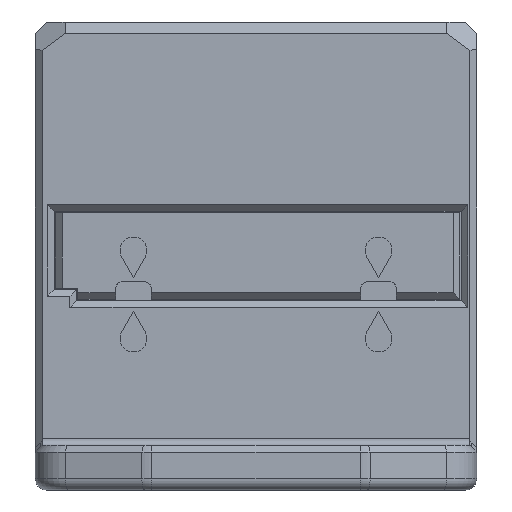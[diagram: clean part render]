
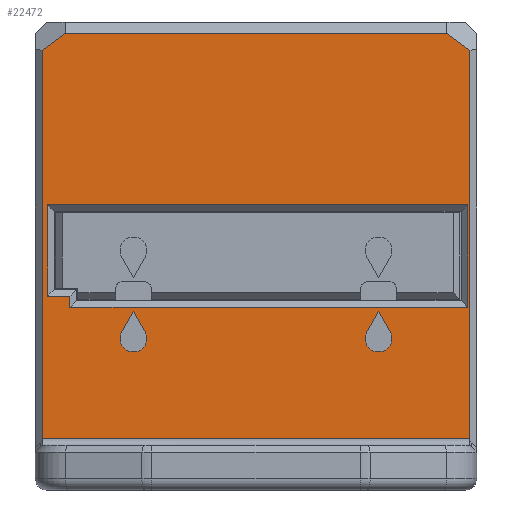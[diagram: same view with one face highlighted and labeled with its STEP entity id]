
A CAD part, front view. The second image highlights one B-rep face of the part: STEP entity #22472.
In plain terms, the highlighted planar face has unit normal (0, -1, 0).
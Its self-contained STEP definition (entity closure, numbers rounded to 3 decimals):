
#6791=DIRECTION('',(-0.5,0.,-0.866));
#6792=VECTOR('',#6791,1.039);
#6793=CARTESIAN_POINT('',(-5.5,-3.7,-13.));
#6794=LINE('',#6793,#6792);
#6795=CARTESIAN_POINT('',(-5.5,-3.7,-14.2));
#6796=DIRECTION('',(0.,-1.,0.));
#6797=DIRECTION('',(-0.866,0.,0.5));
#6798=AXIS2_PLACEMENT_3D('',#6795,#6796,#6797);
#6800=DIRECTION('',(-0.5,0.,0.866));
#6801=VECTOR('',#6800,1.039);
#6802=CARTESIAN_POINT('',(-4.98,-3.7,-13.9));
#6803=LINE('',#6802,#6801);
#6804=DIRECTION('',(-0.5,0.,-0.866));
#6805=VECTOR('',#6804,1.039);
#6806=CARTESIAN_POINT('',(5.5,-3.7,-13.));
#6807=LINE('',#6806,#6805);
#6808=CARTESIAN_POINT('',(5.5,-3.7,-14.2));
#6809=DIRECTION('',(0.,-1.,0.));
#6810=DIRECTION('',(-0.866,0.,0.5));
#6811=AXIS2_PLACEMENT_3D('',#6808,#6809,#6810);
#6813=DIRECTION('',(-0.5,0.,0.866));
#6814=VECTOR('',#6813,1.039);
#6815=CARTESIAN_POINT('',(6.02,-3.7,-13.9));
#6816=LINE('',#6815,#6814);
#6817=DIRECTION('',(1.,0.,0.));
#6818=VECTOR('',#6817,18.85);
#6819=CARTESIAN_POINT('',(-9.35,-3.7,-8.2));
#6820=LINE('',#6819,#6818);
#6821=DIRECTION('',(0.,0.,1.));
#6822=VECTOR('',#6821,4.1);
#6823=CARTESIAN_POINT('',(-9.35,-3.7,-12.3));
#6824=LINE('',#6823,#6822);
#6825=DIRECTION('',(-1.,0.,0.));
#6826=VECTOR('',#6825,1.);
#6827=CARTESIAN_POINT('',(-8.35,-3.7,-12.3));
#6828=LINE('',#6827,#6826);
#6829=DIRECTION('',(0.,0.,1.));
#6830=VECTOR('',#6829,0.5);
#6831=CARTESIAN_POINT('',(-8.35,-3.7,-12.8));
#6832=LINE('',#6831,#6830);
#6833=DIRECTION('',(-1.,0.,0.));
#6834=VECTOR('',#6833,17.85);
#6835=CARTESIAN_POINT('',(9.5,-3.7,-12.8));
#6836=LINE('',#6835,#6834);
#6837=DIRECTION('',(0.,0.,-1.));
#6838=VECTOR('',#6837,4.6);
#6839=CARTESIAN_POINT('',(9.5,-3.7,-8.2));
#6840=LINE('',#6839,#6838);
#6841=DIRECTION('',(-1.,0.,0.));
#6842=VECTOR('',#6841,19.2);
#6843=CARTESIAN_POINT('',(9.6,-3.7,-18.7));
#6844=LINE('',#6843,#6842);
#6845=DIRECTION('',(0.,0.,-1.));
#6846=VECTOR('',#6845,17.425);
#6847=CARTESIAN_POINT('',(-9.6,-3.7,-1.275));
#6848=LINE('',#6847,#6846);
#6849=DIRECTION('',(0.8,0.,0.6));
#6850=VECTOR('',#6849,1.292);
#6851=CARTESIAN_POINT('',(-9.6,-3.7,-1.275));
#6852=LINE('',#6851,#6850);
#6853=DIRECTION('',(1.,0.,0.));
#6854=VECTOR('',#6853,17.133);
#6855=CARTESIAN_POINT('',(-8.567,-3.7,-0.5));
#6856=LINE('',#6855,#6854);
#6857=DIRECTION('',(-0.8,0.,0.6));
#6858=VECTOR('',#6857,1.292);
#6859=CARTESIAN_POINT('',(9.6,-3.7,-1.275));
#6860=LINE('',#6859,#6858);
#6861=DIRECTION('',(0.,0.,1.));
#6862=VECTOR('',#6861,17.425);
#6863=CARTESIAN_POINT('',(9.6,-3.7,-18.7));
#6864=LINE('',#6863,#6862);
#10310=CARTESIAN_POINT('',(-8.567,-3.7,-0.5));
#10311=CARTESIAN_POINT('',(8.567,-3.7,-0.5));
#10312=VERTEX_POINT('',#10310);
#10313=VERTEX_POINT('',#10311);
#10370=CARTESIAN_POINT('',(-5.5,-3.7,-13.));
#10371=CARTESIAN_POINT('',(-6.02,-3.7,-13.9));
#10372=VERTEX_POINT('',#10370);
#10373=VERTEX_POINT('',#10371);
#10374=CARTESIAN_POINT('',(-4.98,-3.7,-13.9));
#10375=VERTEX_POINT('',#10374);
#10376=CARTESIAN_POINT('',(5.5,-3.7,-13.));
#10377=CARTESIAN_POINT('',(4.98,-3.7,-13.9));
#10378=VERTEX_POINT('',#10376);
#10379=VERTEX_POINT('',#10377);
#10380=CARTESIAN_POINT('',(6.02,-3.7,-13.9));
#10381=VERTEX_POINT('',#10380);
#10403=CARTESIAN_POINT('',(-8.35,-3.7,-12.8));
#10405=VERTEX_POINT('',#10403);
#10407=CARTESIAN_POINT('',(-9.6,-3.7,-1.275));
#10409=VERTEX_POINT('',#10407);
#10410=CARTESIAN_POINT('',(9.6,-3.7,-1.275));
#10411=VERTEX_POINT('',#10410);
#12568=CARTESIAN_POINT('',(9.6,-3.7,-18.7));
#12569=CARTESIAN_POINT('',(-9.6,-3.7,-18.7));
#12570=VERTEX_POINT('',#12568);
#12571=VERTEX_POINT('',#12569);
#12580=CARTESIAN_POINT('',(-9.35,-3.7,-8.2));
#12581=CARTESIAN_POINT('',(9.5,-3.7,-8.2));
#12582=VERTEX_POINT('',#12580);
#12583=VERTEX_POINT('',#12581);
#12586=CARTESIAN_POINT('',(-9.35,-3.7,-12.3));
#12587=VERTEX_POINT('',#12586);
#12590=CARTESIAN_POINT('',(-8.35,-3.7,-12.3));
#12591=VERTEX_POINT('',#12590);
#12592=CARTESIAN_POINT('',(9.5,-3.7,-12.8));
#12593=VERTEX_POINT('',#12592);
#22424=CARTESIAN_POINT('',(-9.9,-3.7,0.));
#22425=DIRECTION('',(0.,-1.,0.));
#22426=DIRECTION('',(1.,0.,0.));
#22427=AXIS2_PLACEMENT_3D('',#22424,#22425,#22426);
#22428=PLANE('',#22427);
#22430=ORIENTED_EDGE('',*,*,#22429,.T.);
#22431=ORIENTED_EDGE('',*,*,#22412,.F.);
#22433=ORIENTED_EDGE('',*,*,#22432,.T.);
#22435=ORIENTED_EDGE('',*,*,#22434,.T.);
#22437=ORIENTED_EDGE('',*,*,#22436,.F.);
#22439=ORIENTED_EDGE('',*,*,#22438,.F.);
#22440=EDGE_LOOP('',(#22430,#22431,#22433,#22435,#22437,#22439));
#22441=FACE_OUTER_BOUND('',#22440,.F.);
#22443=ORIENTED_EDGE('',*,*,#22442,.T.);
#22445=ORIENTED_EDGE('',*,*,#22444,.T.);
#22447=ORIENTED_EDGE('',*,*,#22446,.T.);
#22448=EDGE_LOOP('',(#22443,#22445,#22447));
#22449=FACE_BOUND('',#22448,.F.);
#22451=ORIENTED_EDGE('',*,*,#22450,.F.);
#22453=ORIENTED_EDGE('',*,*,#22452,.F.);
#22455=ORIENTED_EDGE('',*,*,#22454,.F.);
#22457=ORIENTED_EDGE('',*,*,#22456,.F.);
#22459=ORIENTED_EDGE('',*,*,#22458,.F.);
#22461=ORIENTED_EDGE('',*,*,#22460,.F.);
#22462=EDGE_LOOP('',(#22451,#22453,#22455,#22457,#22459,#22461));
#22463=FACE_BOUND('',#22462,.F.);
#22465=ORIENTED_EDGE('',*,*,#22464,.T.);
#22467=ORIENTED_EDGE('',*,*,#22466,.T.);
#22469=ORIENTED_EDGE('',*,*,#22468,.T.);
#22470=EDGE_LOOP('',(#22465,#22467,#22469));
#22471=FACE_BOUND('',#22470,.F.);
#6799=CIRCLE('',#6798,0.6);
#6812=CIRCLE('',#6811,0.6);
#22412=EDGE_CURVE('',#10409,#12571,#6848,.T.);
#22429=EDGE_CURVE('',#12570,#12571,#6844,.T.);
#22432=EDGE_CURVE('',#10409,#10312,#6852,.T.);
#22434=EDGE_CURVE('',#10312,#10313,#6856,.T.);
#22436=EDGE_CURVE('',#10411,#10313,#6860,.T.);
#22438=EDGE_CURVE('',#12570,#10411,#6864,.T.);
#22442=EDGE_CURVE('',#10378,#10379,#6807,.T.);
#22444=EDGE_CURVE('',#10379,#10381,#6812,.T.);
#22446=EDGE_CURVE('',#10381,#10378,#6816,.T.);
#22450=EDGE_CURVE('',#12582,#12583,#6820,.T.);
#22452=EDGE_CURVE('',#12587,#12582,#6824,.T.);
#22454=EDGE_CURVE('',#12591,#12587,#6828,.T.);
#22456=EDGE_CURVE('',#10405,#12591,#6832,.T.);
#22458=EDGE_CURVE('',#12593,#10405,#6836,.T.);
#22460=EDGE_CURVE('',#12583,#12593,#6840,.T.);
#22464=EDGE_CURVE('',#10372,#10373,#6794,.T.);
#22466=EDGE_CURVE('',#10373,#10375,#6799,.T.);
#22468=EDGE_CURVE('',#10375,#10372,#6803,.T.);
#22472=ADVANCED_FACE('',(#22441,#22449,#22463,#22471),#22428,.T.);
